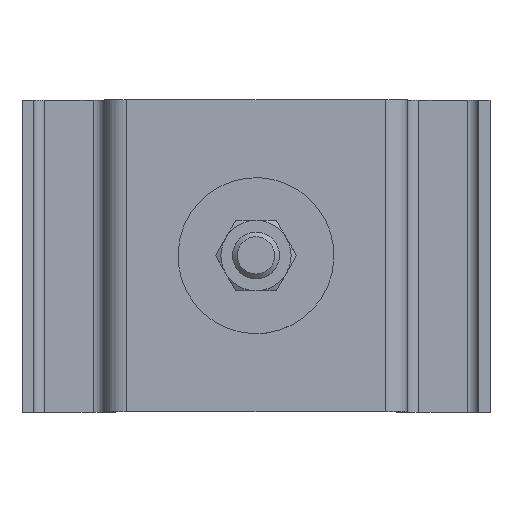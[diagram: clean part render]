
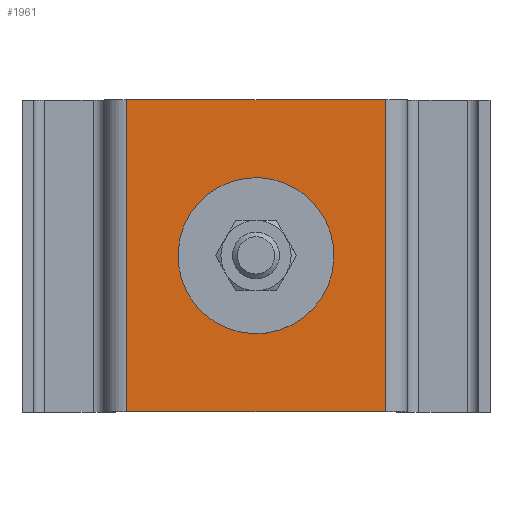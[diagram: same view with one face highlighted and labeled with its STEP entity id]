
A CAD part, top view. The second image highlights one B-rep face of the part: STEP entity #1961.
In plain terms, the highlighted planar face has unit normal (0, 0, 1).
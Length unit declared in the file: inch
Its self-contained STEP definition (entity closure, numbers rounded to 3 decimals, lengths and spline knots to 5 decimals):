
#155=LINE('',#3050,#265);
#160=LINE('',#3068,#270);
#165=LINE('',#3083,#275);
#167=LINE('',#3086,#277);
#265=VECTOR('',#2496,2.5);
#270=VECTOR('',#2519,2.5);
#275=VECTOR('',#2540,2.0706);
#277=VECTOR('',#2544,2.0706);
#344=PLANE('',#2140);
#399=FACE_BOUND('',#641,.T.);
#491=FACE_OUTER_BOUND('',#640,.T.);
#640=EDGE_LOOP('',(#1466,#1467,#1468,#1469));
#641=EDGE_LOOP('',(#1470));
#765=CIRCLE('',#2070,0.53125);
#882=VERTEX_POINT('',#2924);
#907=VERTEX_POINT('',#3047);
#908=VERTEX_POINT('',#3049);
#911=VERTEX_POINT('',#3065);
#912=VERTEX_POINT('',#3067);
#1034=EDGE_CURVE('',#882,#882,#765,.T.);
#1098=EDGE_CURVE('',#908,#907,#155,.T.);
#1107=EDGE_CURVE('',#912,#911,#160,.T.);
#1115=EDGE_CURVE('',#912,#907,#165,.T.);
#1117=EDGE_CURVE('',#908,#911,#167,.T.);
#1466=ORIENTED_EDGE('',*,*,#1107,.T.);
#1467=ORIENTED_EDGE('',*,*,#1117,.F.);
#1468=ORIENTED_EDGE('',*,*,#1098,.T.);
#1469=ORIENTED_EDGE('',*,*,#1115,.F.);
#1470=ORIENTED_EDGE('',*,*,#1034,.T.);
#1961=ADVANCED_FACE('',(#491,#399),#344,.T.);
#2070=AXIS2_PLACEMENT_3D('',#2925,#2344,#2345);
#2140=AXIS2_PLACEMENT_3D('',#3085,#2542,#2543);
#2344=DIRECTION('center_axis',(0.,0.,
-1.));
#2345=DIRECTION('ref_axis',(1.,0.,0.));
#2496=DIRECTION('',(0.,1.,0.));
#2519=DIRECTION('',(0.,-1.,0.));
#2540=DIRECTION('',(1.,0.,0.));
#2542=DIRECTION('center_axis',(0.,0.,
1.));
#2543=DIRECTION('ref_axis',(1.,0.,0.));
#2544=DIRECTION('',(-1.,0.,0.));
#2924=CARTESIAN_POINT('',(0.53125,0.,0.));
#2925=CARTESIAN_POINT('Origin',(0.,0.,
0.));
#3047=CARTESIAN_POINT('',(1.0353,1.25,0.));
#3049=CARTESIAN_POINT('',(1.0353,-1.25,0.));
#3050=CARTESIAN_POINT('',(1.0353,-0.625,0.));
#3065=CARTESIAN_POINT('',(-1.0353,-1.25,0.));
#3067=CARTESIAN_POINT('',(-1.0353,1.25,0.));
#3068=CARTESIAN_POINT('',(-1.0353,0.625,0.));
#3083=CARTESIAN_POINT('',(-1.125,1.25,0.));
#3085=CARTESIAN_POINT('Origin',(0.,0.,
0.));
#3086=CARTESIAN_POINT('',(1.125,-1.25,0.));
